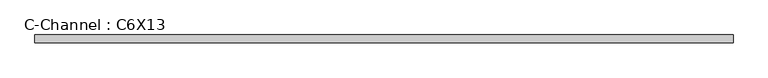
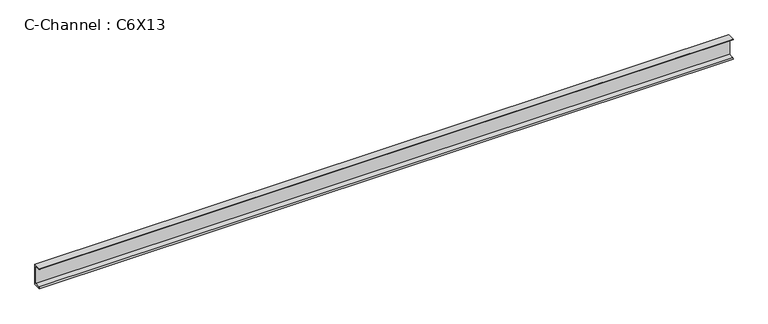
"""IFC4 building model written with IfcOpenShell, lengths in millimetres: beam geometry, C-Channel : C6X13."""

from ifc_helpers import new_model, si_unit, point, frame, frame_2d, origin, place, context, project, spatial, polyline, circle_curve, trimmed, segment, composite_curve, outline, extrude, source, transform, mapped, element, save


def c_channel_c6x13_e31282b3(model_context):
    return source(origin(), model_context, "Body", "SweptSolid", [
        extrude(outline(composite_curve([segment(polyline([(13.0556, 76.2), (13.0556, -76.2), (-41.8084, -76.2)]), True, "CONTINUOUS"), segment(trimmed(circle_curve(frame_2d((-33.0962, -76.2)), 8.7122), [point((-41.8084, -76.2))], [point((-33.0962, -67.4878))], False, "CARTESIAN"), True, "CONTINUOUS"), segment(polyline([(-33.0962, -67.4878), (1.9558, -61.9361086), (1.9558, 61.9361086), (-33.0962, 67.4878)]), True, "CONTINUOUS"), segment(trimmed(circle_curve(frame_2d((-33.0962, 76.2)), 8.7122), [point((-33.0962, 67.4878))], [point((-41.8084, 76.2))], False, "CARTESIAN"), True, "CONTINUOUS"), segment(polyline([(-41.8084, 76.2), (13.0556, 76.2)]), True, "CONTINUOUS")], self_intersect=False)), frame((-2487.3009793, 0.0, 0.0), z_axis=(1.0, 0.0, 0.0), x_axis=(0.0, 1.0, 0.0)), (0.0, 0.0, 1.0), 4974.5869209),
    ])


if __name__ == "__main__":
    model = new_model("IFC4")
    model_context = context("Model", 3, world=origin())
    ifc_project = project(units=[si_unit("LENGTHUNIT", "METRE", prefix="MILLI")], contexts=[model_context])
    site = spatial("IfcSite", under=ifc_project)
    building = spatial("IfcBuilding", under=site)
    placement = place(None, origin())
    c_channel_c6x13_shape = c_channel_c6x13_e31282b3(model_context)
    element("IfcBeam", 1, ObjectType="C-Channel : C6X13", at=placement, inside=building, context=model_context, shape_type="MappedRepresentation", body=[
        mapped(c_channel_c6x13_shape, transform((0.0, 0.0, 0.0), x_axis=(1.0, 0.0, 0.0), y_axis=(0.0, 1.0, 0.0), z_axis=(0.0, 0.0, 1.0))),
    ])
    save(model, "model.ifc")
